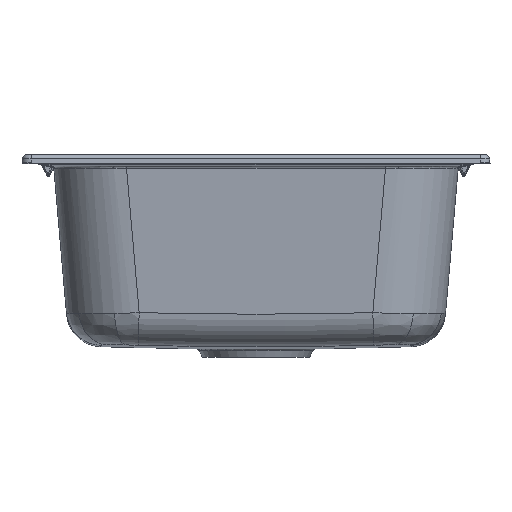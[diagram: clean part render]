
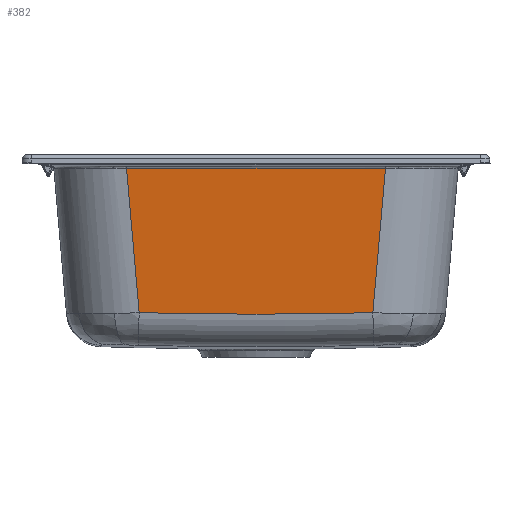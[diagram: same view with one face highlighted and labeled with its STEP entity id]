
A CAD part, left-side view. The second image highlights one B-rep face of the part: STEP entity #382.
In plain terms, the highlighted planar face has unit normal (-0.996, 0, -0.087).
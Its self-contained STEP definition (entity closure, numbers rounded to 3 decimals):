
#382=ADVANCED_FACE('',(#1628),#1629,.T.);
#1628=FACE_OUTER_BOUND('',#7757,.T.);
#1629=PLANE('',#7758);
#7757=EDGE_LOOP('',(#20663,#20664,#20665,#20666,#20667));
#7758=AXIS2_PLACEMENT_3D('',#20668,#20669,#20670);
#20663=ORIENTED_EDGE('',*,*,#25751,.F.);
#20664=ORIENTED_EDGE('',*,*,#25422,.T.);
#20665=ORIENTED_EDGE('',*,*,#25322,.F.);
#20666=ORIENTED_EDGE('',*,*,#25752,.F.);
#20667=ORIENTED_EDGE('',*,*,#25753,.F.);
#20668=CARTESIAN_POINT('',(-466.92,206.951,7.303));
#20669=DIRECTION('',(-0.996,0.0,-0.087));
#20670=DIRECTION('',(-0.087,0.0,0.996));
#25322=EDGE_CURVE('',#28260,#28261,#28262,.F.);
#25422=EDGE_CURVE('',#28422,#28261,#28423,.T.);
#25751=EDGE_CURVE('',#28422,#28962,#28963,.T.);
#25752=EDGE_CURVE('',#28964,#28260,#28965,.T.);
#25753=EDGE_CURVE('',#28962,#28964,#28966,.T.);
#28260=VERTEX_POINT('',#35613);
#28261=VERTEX_POINT('',#35614);
#28262=LINE('',#35615,#35616);
#28422=VERTEX_POINT('',#36286);
#28423=LINE('',#36287,#36288);
#28962=VERTEX_POINT('',#38986);
#28963=LINE('',#38987,#38988);
#28964=VERTEX_POINT('',#38989);
#28965=B_SPLINE_CURVE_WITH_KNOTS('',5,(#38990,#38991,#38992,#38993,#38994,#38995),.UNSPECIFIED.,.F.,.F.,(6,6),(0.0,176.577),.UNSPECIFIED.);
#28966=B_SPLINE_CURVE_WITH_KNOTS('',5,(#38996,#38997,#38998,#38999,#39000,#39001),.UNSPECIFIED.,.F.,.F.,(6,6),(0.0,176.577),.UNSPECIFIED.);
#35613=CARTESIAN_POINT('',(-452.551,122.847,-156.944));
#35614=CARTESIAN_POINT('',(-466.043,136.34,-2.727));
#35615=CARTESIAN_POINT('',(-467.446,137.743,13.312));
#35616=VECTOR('',#51835,1.0);
#36286=CARTESIAN_POINT('',(-466.043,-140.34,-2.727));
#36287=CARTESIAN_POINT('',(-466.043,227.301,-2.727));
#36288=VECTOR('',#51922,1.0);
#38986=CARTESIAN_POINT('',(-452.551,-126.847,-156.944));
#38987=CARTESIAN_POINT('',(-459.297,-133.594,-79.835));
#38988=VECTOR('',#52025,1.0);
#38989=CARTESIAN_POINT('',(-452.413,-2.0,-158.518));
#38990=CARTESIAN_POINT('',(-452.413,-2.,-158.518));
#38991=CARTESIAN_POINT('',(-452.413,22.972,-158.518));
#38992=CARTESIAN_POINT('',(-452.427,47.944,-158.361));
#38993=CARTESIAN_POINT('',(-452.454,72.916,-158.046));
#38994=CARTESIAN_POINT('',(-452.496,97.884,-157.574));
#38995=CARTESIAN_POINT('',(-452.551,122.847,-156.944));
#38996=CARTESIAN_POINT('',(-452.551,-126.847,-156.944));
#38997=CARTESIAN_POINT('',(-452.496,-101.884,-157.574));
#38998=CARTESIAN_POINT('',(-452.454,-76.916,-158.046));
#38999=CARTESIAN_POINT('',(-452.427,-51.944,-158.361));
#39000=CARTESIAN_POINT('',(-452.413,-26.972,-158.518));
#39001=CARTESIAN_POINT('',(-452.413,-2.,-158.518));
#51835=DIRECTION('',(0.087,-0.087,-0.992));
#51922=DIRECTION('',(0.0,1.0,0.0));
#52025=DIRECTION('',(0.087,0.087,-0.992));
